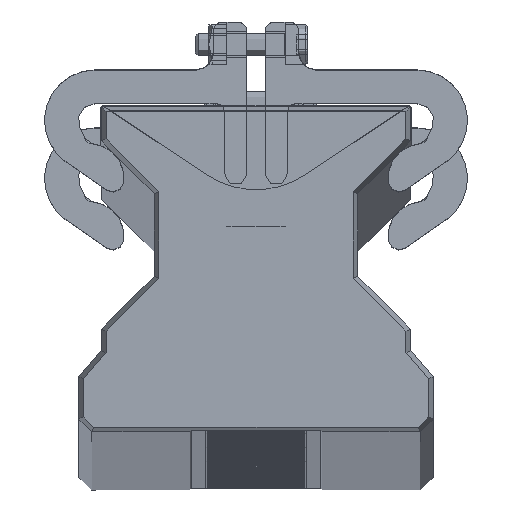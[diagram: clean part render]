
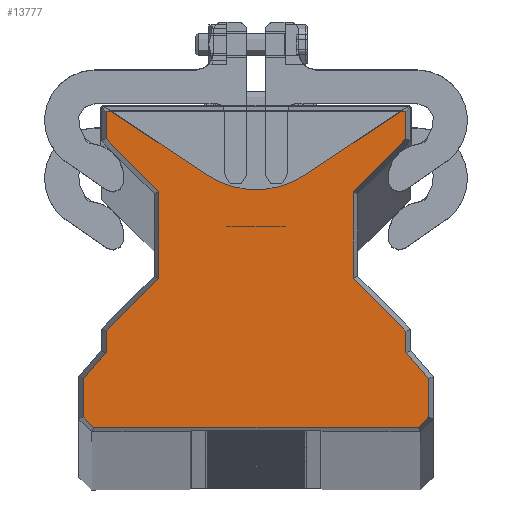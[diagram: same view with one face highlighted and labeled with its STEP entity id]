
A CAD part, top view. The second image highlights one B-rep face of the part: STEP entity #13777.
In plain terms, the highlighted planar face has unit normal (0, 0, 1).
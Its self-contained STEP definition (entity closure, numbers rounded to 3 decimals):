
#5086=DIRECTION('',(1.,0.,0.));
#5087=VECTOR('',#5086,57.696);
#5088=CARTESIAN_POINT('',(-28.848,0.85,0.));
#5089=LINE('',#5088,#5087);
#5090=DIRECTION('',(0.707,-0.707,0.));
#5091=VECTOR('',#5090,2.548);
#5092=CARTESIAN_POINT('',(-30.65,2.652,0.));
#5093=LINE('',#5092,#5091);
#5094=DIRECTION('',(0.,-1.,0.));
#5095=VECTOR('',#5094,6.832);
#5096=CARTESIAN_POINT('',(-30.65,9.484,0.));
#5097=LINE('',#5096,#5095);
#5098=DIRECTION('',(0.653,0.757,0.));
#5099=VECTOR('',#5098,6.123);
#5100=CARTESIAN_POINT('',(-30.65,9.484,0.));
#5101=LINE('',#5100,#5099);
#5102=DIRECTION('',(0.,-1.,0.));
#5103=VECTOR('',#5102,3.809);
#5104=CARTESIAN_POINT('',(-26.65,17.93,0.));
#5105=LINE('',#5104,#5103);
#5106=DIRECTION('',(-0.707,-0.707,0.));
#5107=VECTOR('',#5106,13.294);
#5108=CARTESIAN_POINT('',(-17.25,27.33,0.));
#5109=LINE('',#5108,#5107);
#5110=DIRECTION('',(0.,-1.,0.));
#5111=VECTOR('',#5110,15.34);
#5112=CARTESIAN_POINT('',(-17.25,42.67,0.));
#5113=LINE('',#5112,#5111);
#5114=DIRECTION('',(0.707,-0.707,0.));
#5115=VECTOR('',#5114,13.294);
#5116=CARTESIAN_POINT('',(-26.65,52.07,0.));
#5117=LINE('',#5116,#5115);
#5118=DIRECTION('',(0.,-1.,0.));
#5119=VECTOR('',#5118,4.93);
#5120=CARTESIAN_POINT('',(-26.65,57.,0.));
#5121=LINE('',#5120,#5119);
#5122=DIRECTION('',(-1.,0.,0.));
#5123=VECTOR('',#5122,53.3);
#5124=CARTESIAN_POINT('',(26.65,57.,0.));
#5125=LINE('',#5124,#5123);
#5126=DIRECTION('',(0.,1.,0.));
#5127=VECTOR('',#5126,4.93);
#5128=CARTESIAN_POINT('',(26.65,52.07,0.));
#5129=LINE('',#5128,#5127);
#5130=DIRECTION('',(-0.707,-0.707,0.));
#5131=VECTOR('',#5130,13.294);
#5132=CARTESIAN_POINT('',(26.65,52.07,0.));
#5133=LINE('',#5132,#5131);
#5134=DIRECTION('',(0.,1.,0.));
#5135=VECTOR('',#5134,15.34);
#5136=CARTESIAN_POINT('',(17.25,27.33,0.));
#5137=LINE('',#5136,#5135);
#5138=DIRECTION('',(-0.707,0.707,0.));
#5139=VECTOR('',#5138,13.294);
#5140=CARTESIAN_POINT('',(26.65,17.93,0.));
#5141=LINE('',#5140,#5139);
#5142=DIRECTION('',(0.,1.,0.));
#5143=VECTOR('',#5142,3.809);
#5144=CARTESIAN_POINT('',(26.65,14.12,0.));
#5145=LINE('',#5144,#5143);
#5146=DIRECTION('',(-0.653,0.757,0.));
#5147=VECTOR('',#5146,6.123);
#5148=CARTESIAN_POINT('',(30.65,9.484,0.));
#5149=LINE('',#5148,#5147);
#5150=DIRECTION('',(0.,1.,0.));
#5151=VECTOR('',#5150,6.832);
#5152=CARTESIAN_POINT('',(30.65,2.652,0.));
#5153=LINE('',#5152,#5151);
#5154=DIRECTION('',(0.707,0.707,0.));
#5155=VECTOR('',#5154,2.548);
#5156=CARTESIAN_POINT('',(28.848,0.85,0.));
#5157=LINE('',#5156,#5155);
#5534=CARTESIAN_POINT('',(-28.848,0.85,0.));
#5535=CARTESIAN_POINT('',(28.848,0.85,0.));
#5536=VERTEX_POINT('',#5534);
#5537=VERTEX_POINT('',#5535);
#5538=CARTESIAN_POINT('',(30.65,2.652,0.));
#5539=VERTEX_POINT('',#5538);
#5540=CARTESIAN_POINT('',(30.65,9.484,0.));
#5541=VERTEX_POINT('',#5540);
#5542=CARTESIAN_POINT('',(26.65,14.12,0.));
#5543=VERTEX_POINT('',#5542);
#5544=CARTESIAN_POINT('',(26.65,17.93,0.));
#5545=VERTEX_POINT('',#5544);
#5546=CARTESIAN_POINT('',(17.25,27.33,0.));
#5547=VERTEX_POINT('',#5546);
#5548=CARTESIAN_POINT('',(17.25,42.67,0.));
#5549=VERTEX_POINT('',#5548);
#5550=CARTESIAN_POINT('',(26.65,52.07,0.));
#5551=VERTEX_POINT('',#5550);
#5552=CARTESIAN_POINT('',(26.65,57.,0.));
#5553=VERTEX_POINT('',#5552);
#5554=CARTESIAN_POINT('',(-26.65,57.,0.));
#5555=VERTEX_POINT('',#5554);
#5556=CARTESIAN_POINT('',(-26.65,52.07,0.));
#5557=VERTEX_POINT('',#5556);
#5558=CARTESIAN_POINT('',(-17.25,42.67,0.));
#5559=VERTEX_POINT('',#5558);
#5560=CARTESIAN_POINT('',(-17.25,27.33,0.));
#5561=VERTEX_POINT('',#5560);
#5562=CARTESIAN_POINT('',(-26.65,17.93,0.));
#5563=VERTEX_POINT('',#5562);
#5564=CARTESIAN_POINT('',(-26.65,14.12,0.));
#5565=VERTEX_POINT('',#5564);
#5566=CARTESIAN_POINT('',(-30.65,9.484,0.));
#5567=VERTEX_POINT('',#5566);
#6734=CARTESIAN_POINT('',(-30.65,2.652,0.));
#6735=VERTEX_POINT('',#6734);
#13735=CARTESIAN_POINT('',(0.,0.,0.));
#13736=DIRECTION('',(0.,0.,1.));
#13737=DIRECTION('',(1.,0.,0.));
#13738=AXIS2_PLACEMENT_3D('',#13735,#13736,#13737);
#13739=PLANE('',#13738);
#13741=ORIENTED_EDGE('',*,*,#13740,.F.);
#13743=ORIENTED_EDGE('',*,*,#13742,.F.);
#13745=ORIENTED_EDGE('',*,*,#13744,.F.);
#13747=ORIENTED_EDGE('',*,*,#13746,.T.);
#13749=ORIENTED_EDGE('',*,*,#13748,.F.);
#13751=ORIENTED_EDGE('',*,*,#13750,.F.);
#13753=ORIENTED_EDGE('',*,*,#13752,.F.);
#13754=ORIENTED_EDGE('',*,*,#13725,.F.);
#13756=ORIENTED_EDGE('',*,*,#13755,.F.);
#13758=ORIENTED_EDGE('',*,*,#13757,.F.);
#13760=ORIENTED_EDGE('',*,*,#13759,.F.);
#13762=ORIENTED_EDGE('',*,*,#13761,.T.);
#13764=ORIENTED_EDGE('',*,*,#13763,.F.);
#13766=ORIENTED_EDGE('',*,*,#13765,.F.);
#13768=ORIENTED_EDGE('',*,*,#13767,.F.);
#13770=ORIENTED_EDGE('',*,*,#13769,.F.);
#13772=ORIENTED_EDGE('',*,*,#13771,.F.);
#13774=ORIENTED_EDGE('',*,*,#13773,.F.);
#13775=EDGE_LOOP('',(#13741,#13743,#13745,#13747,#13749,#13751,#13753,#13754,
#13756,#13758,#13760,#13762,#13764,#13766,#13768,#13770,#13772,#13774));
#13776=FACE_OUTER_BOUND('',#13775,.F.);
#13725=EDGE_CURVE('',#5557,#5559,#5117,.T.);
#13740=EDGE_CURVE('',#5536,#5537,#5089,.T.);
#13742=EDGE_CURVE('',#6735,#5536,#5093,.T.);
#13744=EDGE_CURVE('',#5567,#6735,#5097,.T.);
#13746=EDGE_CURVE('',#5567,#5565,#5101,.T.);
#13748=EDGE_CURVE('',#5563,#5565,#5105,.T.);
#13750=EDGE_CURVE('',#5561,#5563,#5109,.T.);
#13752=EDGE_CURVE('',#5559,#5561,#5113,.T.);
#13755=EDGE_CURVE('',#5555,#5557,#5121,.T.);
#13757=EDGE_CURVE('',#5553,#5555,#5125,.T.);
#13759=EDGE_CURVE('',#5551,#5553,#5129,.T.);
#13761=EDGE_CURVE('',#5551,#5549,#5133,.T.);
#13763=EDGE_CURVE('',#5547,#5549,#5137,.T.);
#13765=EDGE_CURVE('',#5545,#5547,#5141,.T.);
#13767=EDGE_CURVE('',#5543,#5545,#5145,.T.);
#13769=EDGE_CURVE('',#5541,#5543,#5149,.T.);
#13771=EDGE_CURVE('',#5539,#5541,#5153,.T.);
#13773=EDGE_CURVE('',#5537,#5539,#5157,.T.);
#13777=ADVANCED_FACE('',(#13776),#13739,.T.);
